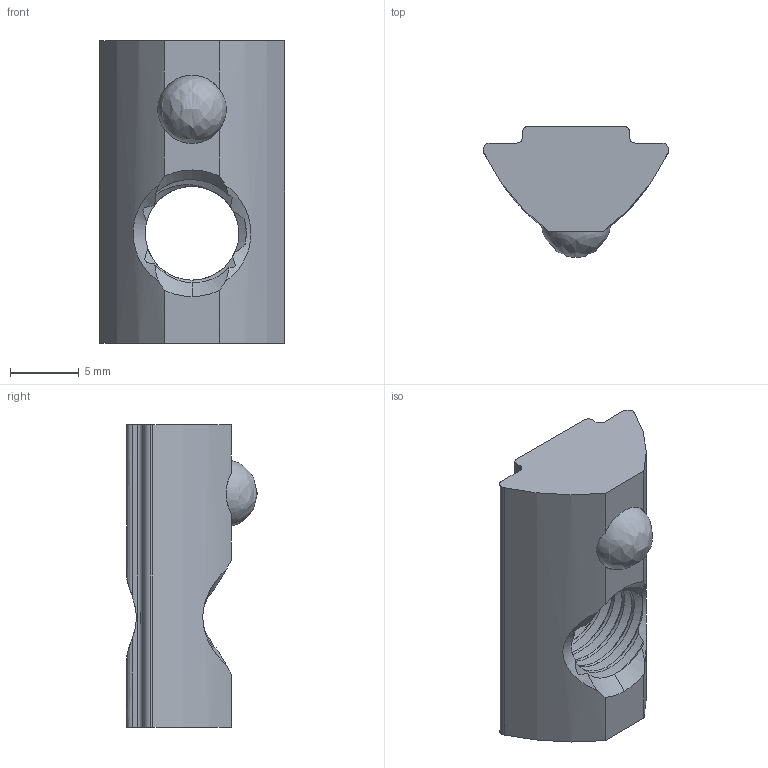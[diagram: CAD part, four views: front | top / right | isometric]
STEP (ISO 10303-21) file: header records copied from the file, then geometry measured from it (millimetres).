
FILE_DESCRIPTION (( 'STEP AP203' ), '1' );
FILE_NAME ('355050_Nutenstein 8 M8 einschwenkbar mit Kugel und Steg.step', '2022-11-24T09:07:56', ( '' ), ( '' ), 'SwSTEP 2.0', 'SolidWorks 2021', '' );
FILE_SCHEMA (( 'CONFIG_CONTROL_DESIGN' ));
Length unit declared in the file: millimetre
Products named in the file (1): 355050_Nutenstein 8 M8 einschwenkbar mit Kugel und Steg
Bounding box: 13.47 x 9.5 x 22 mm (x, y, z)
Volume: 1233.9 mm3; surface area: 1178.7 mm2
Topology: 1 solids, 2 shells, 63 faces, 182 edges, 121 vertices
Faces by surface type: cylinder 29, bspline 15, plane 12, cone 7
Entity records: 6231 total; most frequent: CARTESIAN_POINT 4719, ORIENTED_EDGE 364, DIRECTION 232, EDGE_CURVE 182, VERTEX_POINT 121, AXIS2_PLACEMENT_3D 90, FACE_OUTER_BOUND 63, ADVANCED_FACE 63
